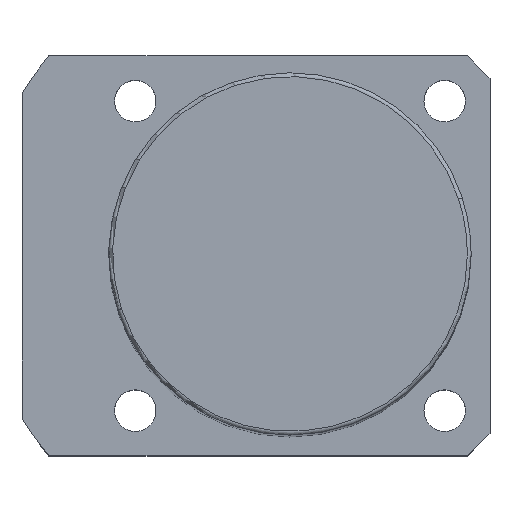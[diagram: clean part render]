
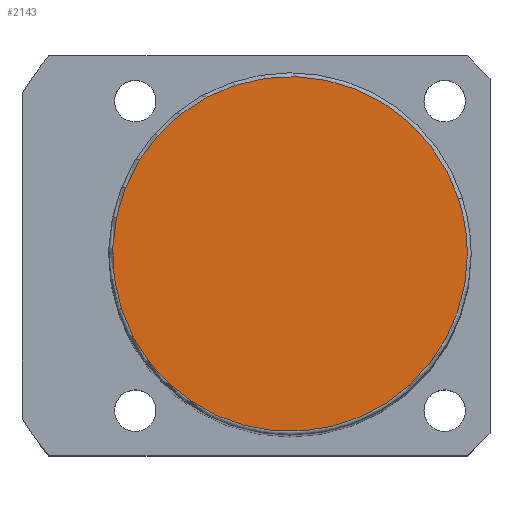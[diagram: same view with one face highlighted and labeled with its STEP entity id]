
A CAD part, top view. The second image highlights one B-rep face of the part: STEP entity #2143.
In plain terms, the highlighted planar face has unit normal (0, 0, 1).
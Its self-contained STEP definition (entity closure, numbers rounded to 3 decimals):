
#2076=CARTESIAN_POINT('',(22.35,7.262,154.0));
#2077=VERTEX_POINT('',#2076);
#2095=CARTESIAN_POINT('',(-22.35,-7.262,154.0));
#2096=VERTEX_POINT('',#2095);
#2104=CARTESIAN_POINT('',(0.0,0.0,154.0));
#2105=DIRECTION('',(0.0,0.0,1.0));
#2106=DIRECTION('',(1.0,0.0,0.0));
#2107=AXIS2_PLACEMENT_3D('',#2104,#2105,#2106);
#2108=CIRCLE('',#2107,23.5);
#2109=EDGE_CURVE('no 2149',#2077,#2096,#2108,.T.);
#2119=CARTESIAN_POINT('',(23.5,0.0,154.0));
#2120=VERTEX_POINT('',#2119);
#2121=CARTESIAN_POINT('',(0.0,0.0,154.0));
#2122=DIRECTION('',(0.0,0.0,1.0));
#2123=DIRECTION('',(1.0,0.0,0.0));
#2124=AXIS2_PLACEMENT_3D('',#2121,#2122,#2123);
#2125=CIRCLE('',#2124,23.5);
#2126=EDGE_CURVE('no 2158',#2120,#2077,#2125,.T.);
#2127=ORIENTED_EDGE('',*,*,#2126,.T.);
#2128=ORIENTED_EDGE('',*,*,#2109,.T.);
#2129=CARTESIAN_POINT('',(0.0,0.0,154.0));
#2130=DIRECTION('',(0.0,0.0,1.0));
#2131=DIRECTION('',(1.0,0.0,0.0));
#2132=AXIS2_PLACEMENT_3D('',#2129,#2130,#2131);
#2133=CIRCLE('',#2132,23.5);
#2134=EDGE_CURVE('no 2164',#2096,#2120,#2133,.T.);
#2135=ORIENTED_EDGE('',*,*,#2134,.T.);
#2136=EDGE_LOOP('',(#2127,#2128,#2135));
#2137=FACE_OUTER_BOUND('',#2136,.T.);
#2138=CARTESIAN_POINT('',(0.0,0.0,154.0));
#2139=DIRECTION('',(0.0,0.0,1.0));
#2140=DIRECTION('',(1.0,0.0,0.0));
#2141=AXIS2_PLACEMENT_3D('',#2138,#2139,#2140);
#2142=PLANE('',#2141);
#2143=ADVANCED_FACE('no 2151',(#2137),#2142,.T.);
